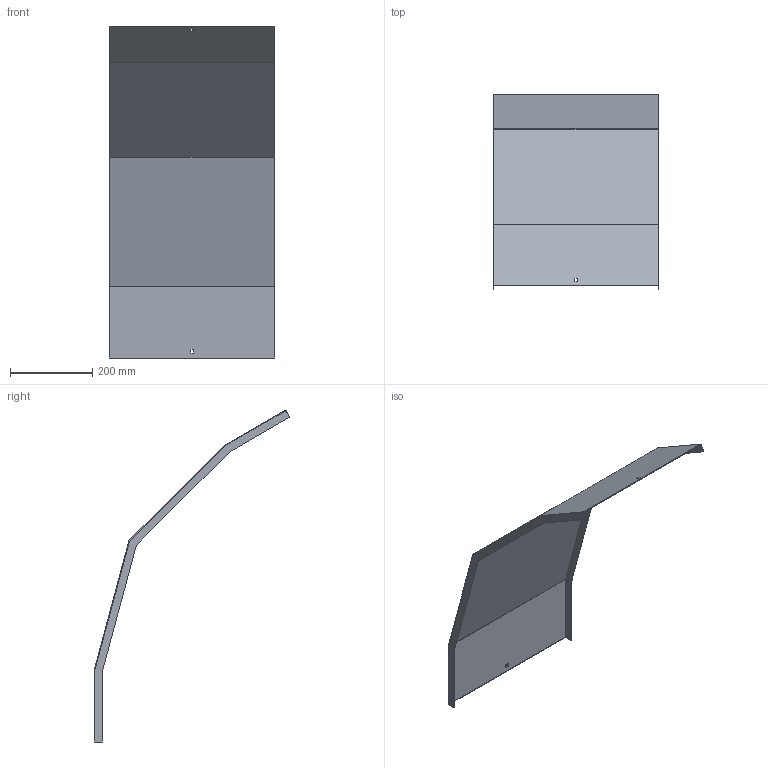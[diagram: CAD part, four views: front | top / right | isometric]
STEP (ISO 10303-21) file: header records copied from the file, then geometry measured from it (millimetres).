
FILE_DESCRIPTION (( 'STEP AP214' ), '1' );
FILE_NAME ('41N5F400.step', '2025-02-21T14:25:14', ( '' ), ( '' ), 'SwSTEP 2.0', 'SolidWorks 2023', '' );
FILE_SCHEMA (( 'AUTOMOTIVE_DESIGN' ));
Length unit declared in the file: millimetre
Products named in the file (1): 41N5F400
Bounding box: 403 x 475.35 x 806.02 mm (x, y, z)
Volume: 658214 mm3; surface area: 881968 mm2
Topology: 1 solids, 1 shells, 30 faces, 84 edges, 56 vertices
Faces by surface type: plane 30
Entity records: 979 total; most frequent: CARTESIAN_POINT 171, ORIENTED_EDGE 168, DIRECTION 146, VECTOR 84, EDGE_CURVE 84, LINE 84, VERTEX_POINT 56, EDGE_LOOP 34
